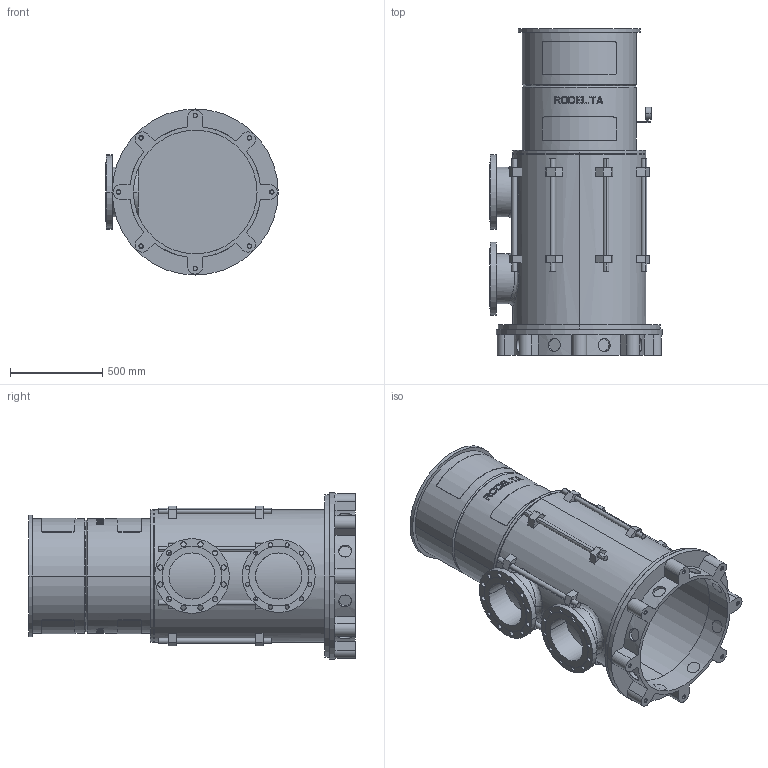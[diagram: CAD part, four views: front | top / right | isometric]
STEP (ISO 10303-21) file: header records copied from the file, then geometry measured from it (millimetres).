
FILE_DESCRIPTION((''),'2;1');
FILE_NAME('LS10_1TR_0GR_PN16','2025-10-24T13:34:46',('Lyritlocal'),(''),'CREO PARAMETRIC BY PTC INC, 2022014','CREO PARAMETRIC BY PTC INC, 2022014','');
FILE_SCHEMA(('CONFIG_CONTROL_DESIGN'));
Length unit declared in the file: millimetre
Products named in the file (1): LS10_1TR_0GR_PN16
Bounding box: 935 x 1770 x 900 mm (x, y, z)
Volume: 82959962.9 mm3; surface area: 11035599.9 mm2
Topology: 3 solids, 11 shells, 752 faces, 1934 edges, 1288 vertices
Faces by surface type: plane 462, cylinder 274, cone 12, bspline 4
Entity records: 24364 total; most frequent: CARTESIAN_POINT 6018, ORIENTED_EDGE 3836, DIRECTION 3662, EDGE_CURVE 1934, AXIS2_PLACEMENT_3D 1381, VERTEX_POINT 1288, EDGE_LOOP 924, VECTOR 900
